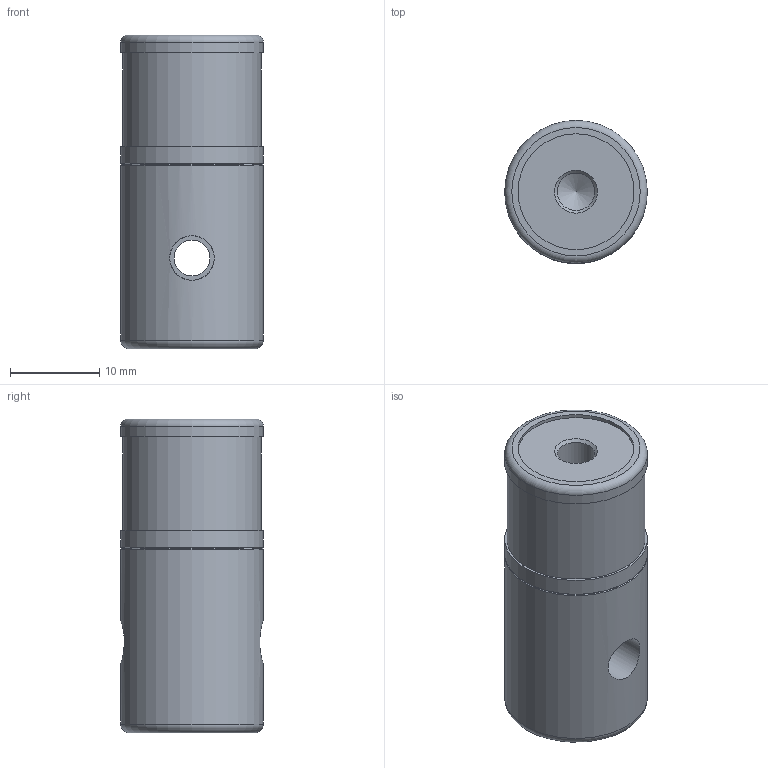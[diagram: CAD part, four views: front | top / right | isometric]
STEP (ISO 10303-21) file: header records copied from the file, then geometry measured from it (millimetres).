
FILE_DESCRIPTION(('STEP AP242'),'1');
FILE_NAME('A.6004 Feststellpatrone.stp','2026-04-23T09:35:07',(' '),(' '),'Spatial InterOp 3D',' ',' ');
FILE_SCHEMA(('AP242_MANAGED_MODEL_BASED_3D_ENGINEERING_MIM_LF {1 0 10303 442 1 1 4}'));
Length unit declared in the file: millimetre
Products named in the file (1): A.6004 Feststellpatrone
Bounding box: 16 x 16 x 35.2 mm (x, y, z)
Volume: 6497.3 mm3; surface area: 2468.5 mm2
Topology: 1 solids, 1 shells, 23 faces, 42 edges, 26 vertices
Faces by surface type: cylinder 10, plane 7, cone 4, torus 2
Full cylindrical faces by diameter (mm): 4 x1, 4.2 x2, 5 x2, 13 x1, 15.5 x1, 16 x3
Entity records: 863 total; most frequent: CARTESIAN_POINT 193, DIRECTION 90, EDGE_LOOP 46, ORIENTED_EDGE 46, AXIS2_PLACEMENT_3D 45, FACE_OUTER_BOUND 35, STYLED_ITEM 24, PRESENTATION_STYLE_ASSIGNMENT 24
